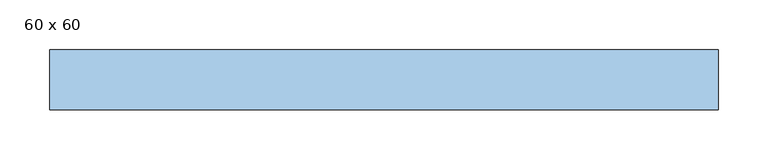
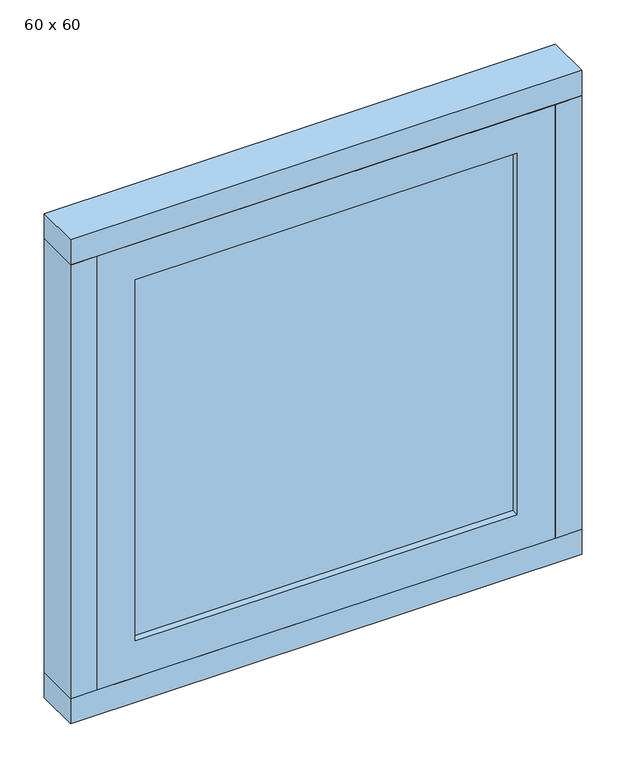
"""IFC4 building model written with IfcOpenShell, lengths in millimetres: window geometry, JANELA TELADA COM ESQUADRIA FIXA - 1 FOLHA : 60 x 60."""

from ifc_helpers import new_model, si_unit, frame, origin, place, context, project, spatial, polyline, outline, extrude, source, transform, mapped, element, save


def window_60_x_60_2f3ebeee(model_context):
    return source(origin(), model_context, "Body", "SweptSolid", [
        extrude(outline(polyline([(-120.5964491, -60.3758395), (379.4035509, -60.3758395), (379.4035509, -66.3758395), (-120.5964491, -66.3758395), (-120.5964491, -60.3758395)])), frame((0.0, 0.0, 1650.0), z_axis=(0.0, 0.0, 1.0), x_axis=(1.0, 0.0, 0.0)), (0.0, 0.0, 1.0), 500.0),
        extrude(outline(polyline([(2200.0, -170.5964491), (1600.0, -170.5964491), (1600.0, 429.4035509), (2200.0, 429.4035509), (2200.0, -170.5964491)]), holes=[polyline([(2150.0, -120.5964491), (2150.0, 379.4035509), (1650.0, 379.4035509), (1650.0, -120.5964491), (2150.0, -120.5964491)])]), frame((0.0, -75.8758395, 0.0), z_axis=(0.0, 1.0, 0.0), x_axis=(0.0, 0.0, 1.0)), (0.0, 0.0, 1.0), 25.0),
        extrude(outline(polyline([(-205.5964491, -15.8758395), (-170.5964491, -15.8758395), (-170.5964491, -75.8758395), (-205.5964491, -75.8758395), (-205.5964491, -15.8758395)])), frame((0.0, 0.0, 1600.0), z_axis=(0.0, 0.0, 1.0), x_axis=(1.0, 0.0, 0.0)), (0.0, 0.0, 1.0), 600.0),
        extrude(outline(polyline([(429.4035509, -15.8758395), (464.4035509, -15.8758395), (464.4035509, -75.8758395), (429.4035509, -75.8758395), (429.4035509, -15.8758395)])), frame((0.0, 0.0, 1600.0), z_axis=(0.0, 0.0, 1.0), x_axis=(1.0, 0.0, 0.0)), (0.0, 0.0, 1.0), 600.0),
        extrude(outline(polyline([(-205.5964491, -15.8758395), (464.4035509, -15.8758395), (464.4035509, -75.8758395), (-205.5964491, -75.8758395), (-205.5964491, -15.8758395)])), frame((0.0, 0.0, 1565.0), z_axis=(0.0, 0.0, 1.0), x_axis=(1.0, 0.0, 0.0)), (0.0, 0.0, 1.0), 35.0),
        extrude(outline(polyline([(-205.5964491, -15.8758395), (464.4035509, -15.8758395), (464.4035509, -75.8758395), (-205.5964491, -75.8758395), (-205.5964491, -15.8758395)])), frame((0.0, 0.0, 2200.0), z_axis=(0.0, 0.0, 1.0), x_axis=(1.0, 0.0, 0.0)), (0.0, 0.0, 1.0), 35.0),
    ])


if __name__ == "__main__":
    model = new_model("IFC4")
    model_context = context("Model", 3, world=origin())
    ifc_project = project(units=[si_unit("LENGTHUNIT", "METRE", prefix="MILLI")], contexts=[model_context])
    site = spatial("IfcSite", under=ifc_project)
    building = spatial("IfcBuilding", under=site)
    placement = place(None, origin())
    window_60_x_60_shape = window_60_x_60_2f3ebeee(model_context)
    element("IfcWindow", 1, ObjectType="JANELA TELADA COM ESQUADRIA FIXA - 1 FOLHA : 60 x 60", at=placement, inside=building, context=model_context, shape_type="MappedRepresentation", body=[
        mapped(window_60_x_60_shape, transform((0.0, 0.0, 0.0), x_axis=(1.0, 0.0, 0.0), y_axis=(0.0, 1.0, 0.0), z_axis=(0.0, 0.0, 1.0))),
    ])
    save(model, "model.ifc")
